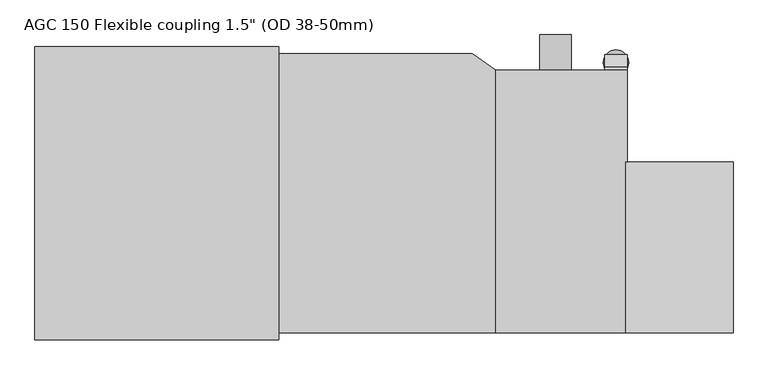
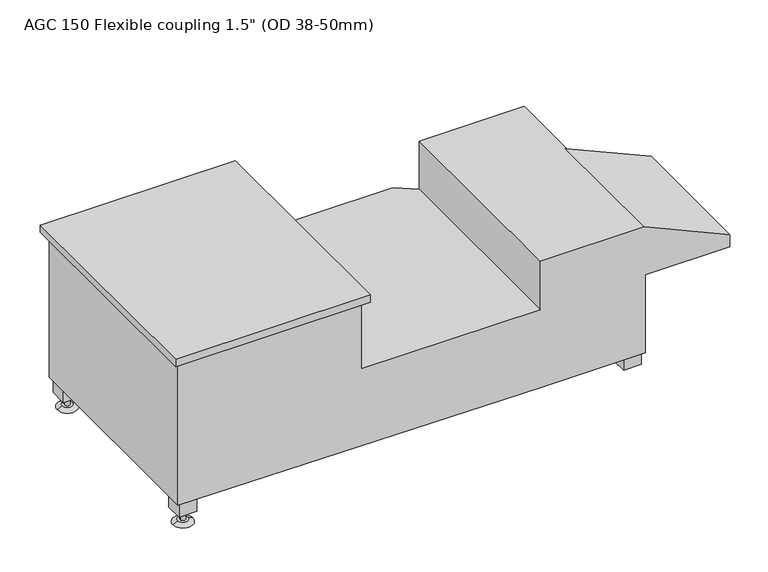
"""IFC4 building model written with IfcOpenShell, lengths in millimetres: unitary equipment geometry."""

from ifc_helpers import new_model, si_unit, point, frame, frame_2d, origin, place, context, project, spatial, polyline, circle_curve, trimmed, segment, composite_curve, outline, extrude, source, transform, mapped, element, save
from ifc_brep_helpers import plane_surface, cylinder_surface, revolved_surface, advanced_brep


def unitary_equipment_1a94fc87(model_context):
    return source(origin(), model_context, "Body", "SolidModel", [
        extrude(outline(composite_curve([segment(trimmed(circle_curve(frame_2d((-438.5, -197.5)), 5.0), [point((-443.5, -197.5))], [point((-433.5, -197.5))], False, "CARTESIAN"), True, "CONTINUOUS"), segment(trimmed(circle_curve(frame_2d((-438.5, -197.5)), 5.0), [point((-433.5, -197.5))], [point((-443.5, -197.5))], False, "CARTESIAN"), True, "CONTINUOUS")], self_intersect=False)), frame((0.0, 0.0, 5.0), z_axis=(0.0, 0.0, 1.0), x_axis=(1.0, 0.0, 0.0)), (0.0, 0.0, 1.0), 20.0),
        advanced_brep(
        [(-448.5, -197.5, 5.0), (-428.5, -197.5, 5.0), (-458.5, -197.5, 0.0), (-418.5, -197.5, 0.0)],
        [
            (0, 1, circle_curve(frame((-438.5, -197.5, 5.0), z_axis=(0.0, 0.0, 1.0), x_axis=(-1.0, 0.0, 0.0)), 10.0)),
            (1, 0, circle_curve(frame((-438.5, -197.5, 5.0), z_axis=(0.0, 0.0, 1.0), x_axis=(1.0, 0.0, 0.0)), 10.0)),
            (2, 3, circle_curve(frame((-438.5, -197.5, 0.0), z_axis=(0.0, 0.0, -1.0), x_axis=(1.0, 0.0, 0.0)), 20.0)),
            (3, 2, circle_curve(frame((-438.5, -197.5, 0.0), z_axis=(0.0, 0.0, -1.0), x_axis=(-1.0, 0.0, 0.0)), 20.0)),
            (2, 0),
            (1, 3),
        ],
        [
            plane_surface(frame((-438.5, -197.5, 5.0), z_axis=(0.0, 0.0, 1.0), x_axis=(0.0, -1.0, 0.0))),
            plane_surface(frame((-438.5, -197.5, 0.0), z_axis=(0.0, 0.0, -1.0), x_axis=(0.0, -1.0, 0.0))),
            revolved_surface(polyline([(-428.5, -197.5, 5.0), (-418.5, -197.5, 0.0)]), (-438.5, -197.5, 10.0), (0.0, 0.0, -1.0)),
            revolved_surface(polyline([(-448.5, -197.5, 5.0), (-458.5, -197.5, 0.0)]), (-438.5, -197.5, 10.0), (0.0, 0.0, -1.0)),
        ],
        [
            (0, [[1, 2]]),
            (1, [[3, 4]]),
            (2, [[-3, 5, -2, 6]]),
            (3, [[-4, -6, -1, -5]]),
        ],
    ),
        extrude(outline(polyline([(219.0, 25.0), (194.0, 25.0), (194.0, 50.0), (199.0, 50.0), (219.0, 30.0), (219.0, 25.0)])), frame((426.0, 0.0, 0.0), z_axis=(1.0, 0.0, 0.0), x_axis=(0.0, 1.0, 0.0)), (0.0, 0.0, 1.0), 35.0),
        advanced_brep(
        [(453.5, 206.5, 5.0), (433.5, 206.5, 5.0), (463.5, 206.5, 0.0), (423.5, 206.5, 0.0)],
        [
            (0, 1, circle_curve(frame((443.5, 206.5, 5.0), z_axis=(0.0, 0.0, 1.0), x_axis=(1.0, 0.0, 0.0)), 10.0)),
            (1, 0, circle_curve(frame((443.5, 206.5, 5.0), z_axis=(0.0, 0.0, 1.0), x_axis=(-1.0, 0.0, 0.0)), 10.0)),
            (2, 3, circle_curve(frame((443.5, 206.5, 0.0), z_axis=(0.0, 0.0, -1.0), x_axis=(-1.0, 0.0, 0.0)), 20.0)),
            (3, 2, circle_curve(frame((443.5, 206.5, 0.0), z_axis=(0.0, 0.0, -1.0), x_axis=(1.0, 0.0, 0.0)), 20.0)),
            (3, 1),
            (0, 2),
        ],
        [
            plane_surface(frame((443.5, 206.5, 5.0), z_axis=(0.0, 0.0, 1.0), x_axis=(0.0, 1.0, 0.0))),
            plane_surface(frame((443.5, 206.5, 0.0), z_axis=(0.0, 0.0, -1.0), x_axis=(0.0, 1.0, 0.0))),
            revolved_surface(polyline([(453.5, 206.5, 5.0), (463.5, 206.5, 0.0)]), (443.5, 206.5, 10.0), (0.0, 0.0, -1.0)),
            revolved_surface(polyline([(433.5, 206.5, 5.0), (423.5, 206.5, 0.0)]), (443.5, 206.5, 10.0), (0.0, 0.0, -1.0)),
        ],
        [
            (0, [[1, 2]]),
            (1, [[3, 4]]),
            (2, [[-4, 5, -1, 6]]),
            (3, [[-3, -6, -2, -5]]),
        ],
    ),
        extrude(outline(composite_curve([segment(trimmed(circle_curve(frame_2d((443.5, 206.5)), 5.0), [point((448.5, 206.5))], [point((438.5, 206.5))], False, "CARTESIAN"), True, "CONTINUOUS"), segment(trimmed(circle_curve(frame_2d((443.5, 206.5)), 5.0), [point((438.5, 206.5))], [point((448.5, 206.5))], False, "CARTESIAN"), True, "CONTINUOUS")], self_intersect=False)), frame((0.0, 0.0, 5.0), z_axis=(0.0, 0.0, 1.0), x_axis=(1.0, 0.0, 0.0)), (0.0, 0.0, 1.0), 20.0),
        advanced_brep(
        [(461.0, -220.0, 213.0), (461.0, -220.0, 50.0), (461.0, -22.3913393, 25.0), (461.0, 194.0, 25.0), (461.0, 194.0, 313.5), (461.0, 49.5, 313.5), (461.0, 49.5, 312.6841956), (461.0, 49.5, 213.0), (254.0, -22.3913393, 25.0), (254.0, 194.0, 25.0), (254.0, 194.0, 213.0), (254.0, 194.0, 313.5), (323.0, 194.0, 226.0), (373.0, 194.0, 226.0), (-461.0, 220.0, 55.0), (-461.0, -220.0, 55.0), (-461.0, -220.0, 355.0), (-461.0, 220.0, 355.0), (254.0, -220.0, 50.0), (628.0, -220.0, 213.0), (628.0, -220.0, 238.0), (459.1757942, -220.0, 313.5), (254.0, -220.0, 313.5), (254.0, -220.0, 213.0), (-99.0, -220.0, 213.0), (-99.0, -220.0, 355.0), (-442.9086877, -215.0, 54.240924), (-421.0, -215.0, 54.0877164), (-421.0, -208.94497, 53.3216783), (216.8681518, 220.0, 26.5579796), (-421.0, -180.0, 53.3216783), (-456.0, -180.0, 54.7902098), (-456.0, -215.0, 54.7902098), (-421.0, 215.0, 53.3216783), (-456.0, 215.0, 54.7902098), (-456.0, 180.0, 54.7902098), (-421.0, 180.0, 53.3216783), (-99.0, 220.0, 355.0), (-99.0, 220.0, 213.0), (216.8681518, 220.0, 213.0), (-421.0, -215.0, 25.0), (-456.0, -215.0, 25.0), (-456.0, -180.0, 25.0), (-421.0, -180.0, 25.0), (-421.0, 215.0, 25.0), (-421.0, 180.0, 25.0), (-456.0, 180.0, 25.0), (-456.0, 215.0, 25.0), (421.0, -215.0, 25.0), (421.0, -180.0, 25.0), (456.0, -180.0, 25.0), (456.0, -215.0, 25.0), (456.0, -215.0, 49.3674366), (421.0, -215.0, 49.3674366), (456.0, -180.0, 44.9394931), (421.0, -180.0, 44.9394931), (-88.0, 231.0, 370.0), (-472.0, 231.0, 370.0), (-472.0, -231.0, 370.0), (-88.0, -231.0, 370.0), (628.0, 49.5, 238.0), (628.0, 49.5, 213.0), (459.1757942, 49.5, 313.5), (-88.0, 231.0, 355.0), (-88.0, -231.0, 355.0), (-472.0, -231.0, 355.0), (-472.0, 231.0, 355.0), (323.0, 250.0, 226.0), (373.0, 250.0, 226.0)],
        [
            (0, 1),
            (1, 2),
            (2, 3),
            (3, 4),
            (4, 5),
            (5, 6),
            (6, 7),
            (7, 0),
            (2, 8),
            (8, 9),
            (9, 3),
            (9, 10),
            (10, 11),
            (11, 4),
            (12, 13, circle_curve(frame((348.0, 194.0, 226.0), z_axis=(0.0, -1.0, 0.0), x_axis=(1.0, 0.0, 0.0)), 25.0)),
            (13, 12, circle_curve(frame((348.0, 194.0, 226.0), z_axis=(0.0, -1.0, 0.0), x_axis=(1.0, 0.0, 0.0)), 25.0)),
            (14, 15),
            (15, 16),
            (16, 17),
            (17, 14),
            (15, 18),
            (18, 1),
            (0, 19),
            (19, 20),
            (20, 21),
            (21, 22),
            (22, 23),
            (23, 24),
            (24, 25),
            (25, 16),
            (15, 26),
            (26, 27),
            (27, 28),
            (28, 8),
            (8, 18),
            (14, 29),
            (29, 9),
            (28, 30),
            (30, 31),
            (31, 32),
            (32, 26),
            (33, 34),
            (34, 35),
            (35, 36),
            (36, 33),
            (17, 37),
            (37, 38),
            (38, 39),
            (39, 29),
            (10, 39),
            (38, 24),
            (23, 10),
            (40, 41),
            (41, 42),
            (42, 43),
            (43, 40),
            (44, 45),
            (45, 46),
            (46, 47),
            (47, 44),
            (48, 49),
            (49, 50),
            (50, 51),
            (51, 48),
            (43, 30),
            (27, 40),
            (42, 31),
            (41, 32),
            (47, 34),
            (33, 44),
            (46, 35),
            (45, 36),
            (51, 52),
            (52, 53),
            (53, 48),
            (50, 54),
            (54, 52),
            (49, 55),
            (55, 54),
            (53, 55),
            (56, 57),
            (57, 58),
            (58, 59),
            (59, 56),
            (37, 25),
            (60, 61),
            (61, 7),
            (6, 60),
            (19, 61),
            (60, 20),
            (6, 62),
            (62, 21),
            (62, 5),
            (11, 22),
            (63, 64),
            (64, 65),
            (65, 66),
            (66, 63),
            (56, 63),
            (66, 57),
            (65, 58),
            (64, 59),
            (67, 68, circle_curve(frame((348.0, 250.0, 226.0), z_axis=(0.0, 1.0, 0.0), x_axis=(1.0, 0.0, 0.0)), 25.0)),
            (68, 67, circle_curve(frame((348.0, 250.0, 226.0), z_axis=(0.0, 1.0, 0.0), x_axis=(1.0, 0.0, 0.0)), 25.0)),
            (68, 13),
            (12, 67),
        ],
        [
            plane_surface(frame((461.0, -220.0, 213.0), z_axis=(1.0, 0.0, 0.0), x_axis=(0.0, 0.0, -1.0))),
            plane_surface(frame((461.0, -22.3913393, 25.0), z_axis=(0.0, 0.0, -1.0), x_axis=(-1.0, 0.0, 0.0))),
            plane_surface(frame((461.0, 194.0, 25.0), z_axis=(0.0, 1.0, 0.0), x_axis=(-1.0, 0.0, 0.0))),
            plane_surface(frame((-461.0, 0.0, 134.0), z_axis=(-1.0, 0.0, 0.0), x_axis=(0.0, 0.0, -1.0))),
            plane_surface(frame((-461.0, -220.0, 134.0), z_axis=(0.0, -1.0, 0.0), x_axis=(0.0, 0.0, -1.0))),
            plane_surface(frame((-461.0, -220.0, 55.0), z_axis=(-0.006937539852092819, -0.12550920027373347, -0.9920681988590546), x_axis=(0.0, 0.9920920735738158, -0.12551222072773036))),
            plane_surface(frame((-461.0, 0.0, 55.0), z_axis=(-0.04192115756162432, 0.0, -0.9991209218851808), x_axis=(0.0, 1.0, 0.0))),
            plane_surface(frame((-461.0, 220.0, 134.0), z_axis=(0.0, 1.0, 0.0), x_axis=(0.0, 0.0, 1.0))),
            plane_surface(frame((-461.0, 0.0, 213.0), z_axis=(0.0, 0.0, 1.0), x_axis=(0.0, -1.0, 0.0))),
            plane_surface(frame((-421.0, -215.0, 25.0), z_axis=(0.0, 0.0, -1.0), x_axis=(0.0, -1.0, 0.0))),
            plane_surface(frame((-421.0, -215.0, 55.0), z_axis=(1.0, 0.0, 0.0), x_axis=(0.0, 0.0, -1.0))),
            plane_surface(frame((-421.0, -180.0, 55.0), z_axis=(0.0, 1.0, 0.0), x_axis=(0.0, 0.0, -1.0))),
            plane_surface(frame((-456.0, -180.0, 55.0), z_axis=(-1.0, 0.0, 0.0), x_axis=(0.0, 0.0, -1.0))),
            plane_surface(frame((-456.0, -215.0, 55.0), z_axis=(0.0, -1.0, 0.0), x_axis=(0.0, 0.0, -1.0))),
            plane_surface(frame((-421.0, 215.0, 55.0), z_axis=(0.0, 1.0, 0.0), x_axis=(0.0, 0.0, -1.0))),
            plane_surface(frame((-456.0, 215.0, 55.0), z_axis=(-1.0, 0.0, 0.0), x_axis=(0.0, 0.0, -1.0))),
            plane_surface(frame((-456.0, 180.0, 55.0), z_axis=(0.0, -1.0, 0.0), x_axis=(0.0, 0.0, -1.0))),
            plane_surface(frame((-421.0, 180.0, 55.0), z_axis=(1.0, 0.0, 0.0), x_axis=(0.0, 0.0, -1.0))),
            plane_surface(frame((421.0, -215.0, 55.0), z_axis=(0.0, -1.0, 0.0), x_axis=(0.0, 0.0, -1.0))),
            plane_surface(frame((456.0, -215.0, 55.0), z_axis=(1.0, 0.0, 0.0), x_axis=(0.0, 0.0, -1.0))),
            plane_surface(frame((456.0, -180.0, 55.0), z_axis=(0.0, 1.0, 0.0), x_axis=(0.0, 0.0, -1.0))),
            plane_surface(frame((421.0, -180.0, 55.0), z_axis=(-1.0, 0.0, 0.0), x_axis=(0.0, 0.0, -1.0))),
            plane_surface(frame((-99.0, -220.0, 370.0), z_axis=(0.0, 0.0, 1.0), x_axis=(0.0, 1.0, 0.0))),
            plane_surface(frame((-99.0, -220.0, 213.0), z_axis=(1.0, 0.0, 0.0), x_axis=(0.0, 1.0, 0.0))),
            plane_surface(frame((628.0, 49.5, 238.0), z_axis=(0.0, 1.0, 0.0), x_axis=(0.0, 0.0, -1.0))),
            plane_surface(frame((628.0, -220.0, 213.0), z_axis=(1.0, 0.0, 0.0), x_axis=(0.0, 1.0, 0.0))),
            plane_surface(frame((628.0, -220.0, 238.0), z_axis=(0.408246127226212, 0.0, 0.912871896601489), x_axis=(0.0, 1.0, 0.0))),
            plane_surface(frame((459.1757942, -220.0, 313.5), z_axis=(0.0, 0.0, 1.0), x_axis=(0.0, 1.0, 0.0))),
            plane_surface(frame((254.0, -220.0, 313.5), z_axis=(-1.0, 0.0, 0.0), x_axis=(0.0, 1.0, 0.0))),
            plane_surface(frame((254.0, -220.0, 213.0), z_axis=(0.0, 0.0, -1.0), x_axis=(0.0, 1.0, 0.0))),
            plane_surface(frame((254.0, 49.5, 313.5), z_axis=(0.0, -1.0, 0.0), x_axis=(-1.0, 0.0, 0.0))),
            plane_surface(frame((461.0, -220.0, 50.0), z_axis=(0.0, -0.12551222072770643, -0.9920920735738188), x_axis=(-1.0, 0.0, 0.0))),
            plane_surface(frame((-472.0, 231.0, 355.0), z_axis=(0.0, 0.0, -1.0), x_axis=(1.0, 0.0, 0.0))),
            plane_surface(frame((-88.0, 231.0, 370.0), z_axis=(0.0, 1.0, 0.0), x_axis=(0.0, 0.0, -1.0))),
            plane_surface(frame((-472.0, 231.0, 370.0), z_axis=(-1.0, 0.0, 0.0), x_axis=(0.0, 0.0, -1.0))),
            plane_surface(frame((-472.0, -231.0, 370.0), z_axis=(0.0, -1.0, 0.0), x_axis=(0.0, 0.0, -1.0))),
            plane_surface(frame((-88.0, -231.0, 370.0), z_axis=(1.0, 0.0, 0.0), x_axis=(0.0, 0.0, -1.0))),
            plane_surface(frame((373.0, 250.0, 226.0), z_axis=(0.0, 1.0, 0.0), x_axis=(0.0, 0.0, -1.0))),
            cylinder_surface(frame((348.0, 250.0, 226.0), z_axis=(0.0, -1.0, 0.0), x_axis=(1.0, 0.0, 0.0)), 25.0),
            plane_surface(frame((216.8681518, 220.0, 370.0), z_axis=(0.5735764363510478, 0.8191520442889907, 0.0), x_axis=(0.0, 0.0, -1.0))),
        ],
        [
            (0, [[1, 2, 3, 4, 5, 6, 7, 8]]),
            (1, [[-3, 9, 10, 11]]),
            (2, [[-11, 12, 13, 14, -4], [15, 16]]),
            (3, [[17, 18, 19, 20]]),
            (4, [[21, 22, -1, 23, 24, 25, 26, 27, 28, 29, 30, -18]]),
            (5, [[-21, 31, 32, 33, 34, 35]]),
            (6, [[-17, 36, 37, -10, -34, 38, 39, 40, 41, -31], [42, 43, 44, 45]]),
            (7, [[-36, -20, 46, 47, 48, 49]]),
            (8, [[50, -48, 51, -28, 52]]),
            (9, [[53, 54, 55, 56]]),
            (9, [[57, 58, 59, 60]]),
            (9, [[61, 62, 63, 64]]),
            (10, [[-56, 65, -38, -33, 66]]),
            (11, [[-55, 67, -39, -65]]),
            (12, [[-54, 68, -40, -67]]),
            (13, [[-53, -66, -32, -41, -68]]),
            (14, [[-60, 69, -42, 70]]),
            (15, [[-59, 71, -43, -69]]),
            (16, [[-58, 72, -44, -71]]),
            (17, [[-57, -70, -45, -72]]),
            (18, [[-64, 73, 74, 75]]),
            (19, [[-63, 76, 77, -73]]),
            (20, [[-62, 78, 79, -76]]),
            (21, [[-61, -75, 80, -78]]),
            (22, [[81, 82, 83, 84]]),
            (23, [[-51, -47, 85, -29]]),
            (24, [[86, 87, -7, 88]]),
            (25, [[-24, 89, -86, 90]]),
            (26, [[-25, -90, -88, 91, 92]]),
            (27, [[-26, -92, 93, -5, -14, 94]]),
            (28, [[-27, -94, -13, -52]]),
            (29, [[-89, -23, -8, -87]]),
            (30, [[-93, -91, -6]]),
            (31, [[-2, -22, -35, -9], [-74, -77, -79, -80]]),
            (32, [[95, 96, 97, 98], [-19, -30, -85, -46]]),
            (33, [[-81, 99, -98, 100]]),
            (34, [[-82, -100, -97, 101]]),
            (35, [[-83, -101, -96, 102]]),
            (36, [[-84, -102, -95, -99]]),
            (37, [[103, 104]]),
            (38, [[-104, 105, -15, 106]]),
            (38, [[-103, -106, -16, -105]]),
            (39, [[-37, -49, -50, -12]]),
        ],
    ),
        extrude(outline(composite_curve([segment(trimmed(circle_curve(frame_2d((-438.5, 197.5)), 5.0), [point((-443.5, 197.5))], [point((-433.5, 197.5))], False, "CARTESIAN"), True, "CONTINUOUS"), segment(trimmed(circle_curve(frame_2d((-438.5, 197.5)), 5.0), [point((-433.5, 197.5))], [point((-443.5, 197.5))], False, "CARTESIAN"), True, "CONTINUOUS")], self_intersect=False)), frame((0.0, 0.0, 5.0), z_axis=(0.0, 0.0, 1.0), x_axis=(1.0, 0.0, 0.0)), (0.0, 0.0, 1.0), 20.0),
        advanced_brep(
        [(-448.5, 197.5, 5.0), (-428.5, 197.5, 5.0), (-458.5, 197.5, 0.0), (-418.5, 197.5, 0.0)],
        [
            (0, 1, circle_curve(frame((-438.5, 197.5, 5.0), z_axis=(7.566534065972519e-12, 0.0, 1.0), x_axis=(-1.0, 0.0, 7.566515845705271e-12)), 10.0)),
            (1, 0, circle_curve(frame((-438.5, 197.5, 5.0), z_axis=(7.566534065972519e-12, 0.0, 1.0), x_axis=(1.0, 0.0, -7.566515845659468e-12)), 10.0)),
            (2, 3, circle_curve(frame((-438.5, 197.5, 0.0), z_axis=(-7.566534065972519e-12, 0.0, -1.0), x_axis=(1.0, 0.0, -7.566515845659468e-12)), 20.0)),
            (3, 2, circle_curve(frame((-438.5, 197.5, 0.0), z_axis=(-7.566534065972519e-12, 0.0, -1.0), x_axis=(-1.0, 0.0, 7.566515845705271e-12)), 20.0)),
            (3, 1),
            (0, 2),
        ],
        [
            plane_surface(frame((-438.5, 197.5, 5.0), z_axis=(0.0, 0.0, 1.0), x_axis=(0.0, -1.0, 0.0))),
            plane_surface(frame((-438.5, 197.5, 0.0), z_axis=(0.0, 0.0, -1.0), x_axis=(0.0, -1.0, 0.0))),
            revolved_surface(polyline([(-448.49999999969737, 197.5, 5.000000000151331), (-458.5, 197.5, 0.0)]), (-438.5, 197.5, 10.0), (-7.566534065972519e-12, 0.0, -1.0)),
            revolved_surface(polyline([(-428.5, 197.5, 5.0), (-418.4999999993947, 197.5, -3.026627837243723e-10)]), (-438.5, 197.5, 10.0), (-7.566534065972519e-12, 0.0, -1.0)),
        ],
        [
            (0, [[1, 2]]),
            (1, [[3, 4]]),
            (2, [[-4, 5, -1, 6]]),
            (3, [[-3, -6, -2, -5]]),
        ],
    ),
    ])


if __name__ == "__main__":
    model = new_model("IFC4")
    model_context = context("Model", 3, world=origin())
    ifc_project = project(units=[si_unit("LENGTHUNIT", "METRE", prefix="MILLI")], contexts=[model_context])
    site = spatial("IfcSite", under=ifc_project)
    building = spatial("IfcBuilding", under=site)
    placement = place(None, origin())
    unitary_equipment_shape = unitary_equipment_1a94fc87(model_context)
    element("IfcUnitaryEquipment", 1, ObjectType="ME_ST_UN_AGC grease capture_ACO : AGC 150 Flexible coupling 1.5\" (OD 38-50mm)", at=placement, inside=building, context=model_context, shape_type="MappedRepresentation", body=[
        mapped(unitary_equipment_shape, transform((0.0, 0.0, 0.0), x_axis=(1.0, 0.0, 0.0), y_axis=(0.0, 1.0, 0.0), z_axis=(0.0, 0.0, 1.0))),
    ])
    save(model, "model.ifc")
